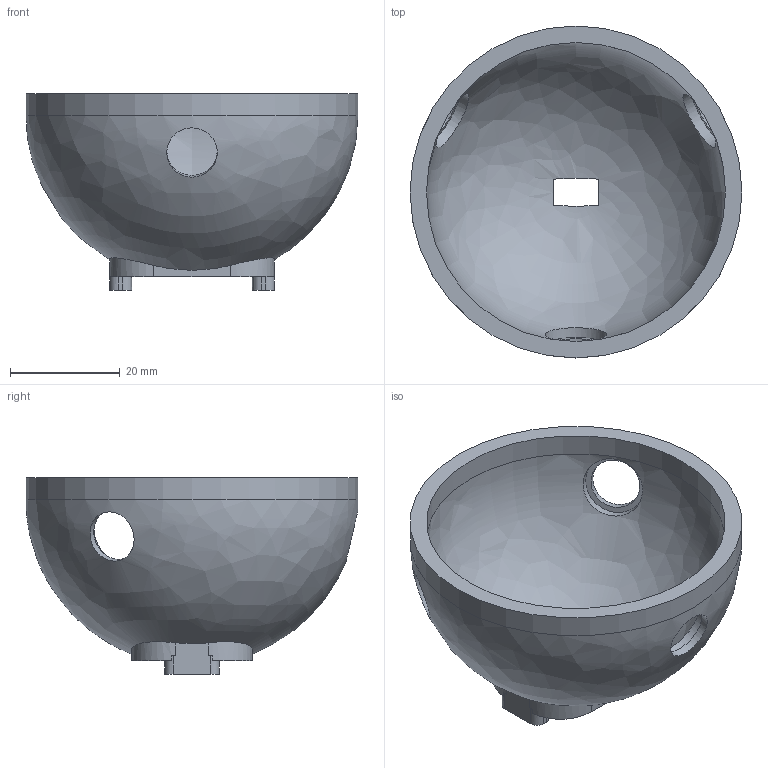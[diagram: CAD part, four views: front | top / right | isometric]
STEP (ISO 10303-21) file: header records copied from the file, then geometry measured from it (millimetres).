
FILE_DESCRIPTION(('Open CASCADE Model'),'2;1');
FILE_NAME('Open CASCADE Shape Model','2026-05-31T19:43:35',('Author'),( 'Open CASCADE'),'Open CASCADE STEP processor 7.6','Open CASCADE 7.6' ,'Unknown');
FILE_SCHEMA(('AP242_MANAGED_MODEL_BASED_3D_ENGINEERING_MIM_LF. {1 0 10303 442 1 1 4 }'));
Length unit declared in the file: millimetre
Products named in the file (1): Open CASCADE STEP translator 7.6 7
Bounding box: 60.5 x 60.5 x 35.85 mm (x, y, z)
Volume: 17231.4 mm3; surface area: 12719.8 mm2
Topology: 1 solids, 1 shells, 71 faces, 194 edges, 128 vertices
Faces by surface type: plane 35, cylinder 28, bspline 4, revolution 2, cone 2
Full cylindrical faces by diameter (mm): 2.05 x2, 9.2 x3, 11.2 x3, 54.5 x1, 60.5 x1
Entity records: 8130 total; most frequent: CARTESIAN_POINT 4312, DIRECTION 702, ORIENTED_EDGE 384, PCURVE 384, DEFINITIONAL_REPRESENTATION 384, LINE 382, VECTOR 382, EDGE_CURVE 192
